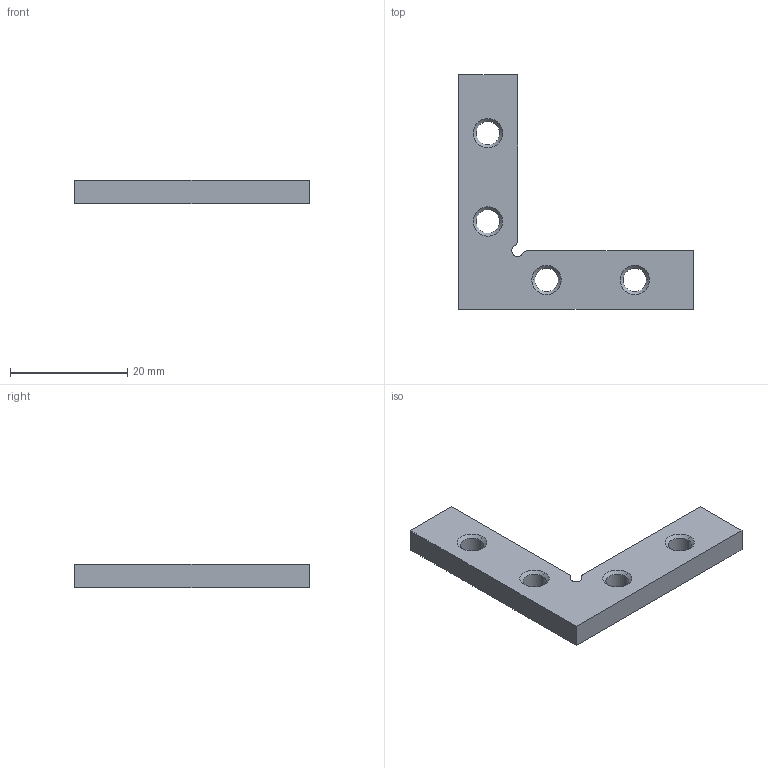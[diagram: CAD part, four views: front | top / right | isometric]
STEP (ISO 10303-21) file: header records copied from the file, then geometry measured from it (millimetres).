
FILE_DESCRIPTION (( 'STEP AP203' ), '1' );
FILE_NAME ('2058.STEP', '2016-03-23T13:40:49', ( '' ), ( '' ), 'SwSTEP 2.0', 'SolidWorks 2014', '' );
FILE_SCHEMA (( 'CONFIG_CONTROL_DESIGN' ));
Length unit declared in the file: millimetre
Products named in the file (1): 2058
Bounding box: 40.07 x 40.07 x 4 mm (x, y, z)
Volume: 2588.7 mm3; surface area: 2125.7 mm2
Topology: 1 solids, 1 shells, 35 faces, 83 edges, 50 vertices
Faces by surface type: cone 16, cylinder 11, plane 8
Entity records: 1100 total; most frequent: DIRECTION 193, CARTESIAN_POINT 169, ORIENTED_EDGE 166, EDGE_CURVE 83, AXIS2_PLACEMENT_3D 74, VERTEX_POINT 50, LINE 45, VECTOR 45
